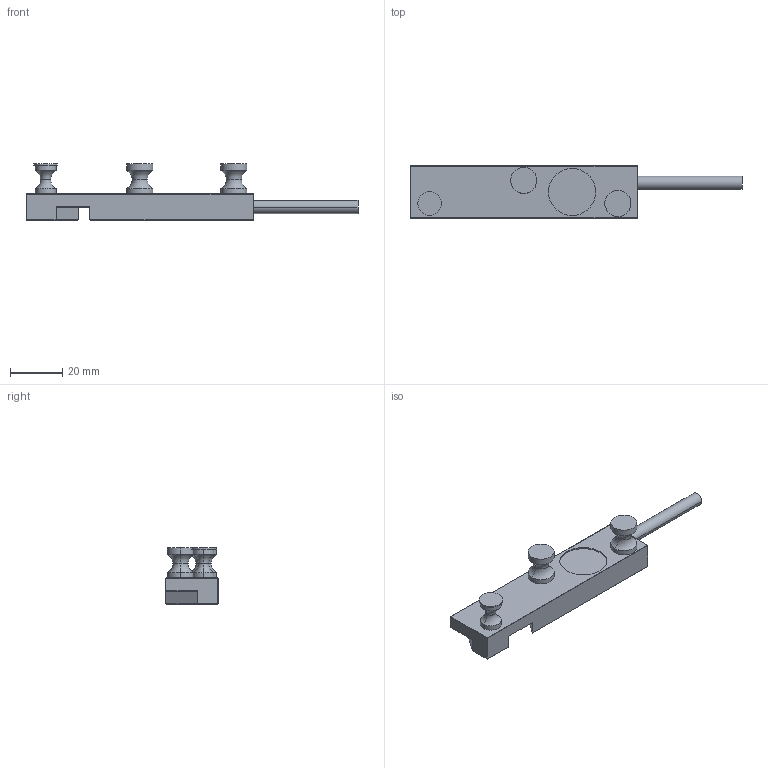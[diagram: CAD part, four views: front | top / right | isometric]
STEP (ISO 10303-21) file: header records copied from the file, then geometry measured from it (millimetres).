
FILE_DESCRIPTION (( 'STEP AP203' ), '1' );
FILE_NAME ('STAE-眒瞄勤.STEP', '2024-12-10T13:25:49', ( '' ), ( '' ), 'SwSTEP 2.0', 'SolidWorks 2019', '' );
FILE_SCHEMA (( 'CONFIG_CONTROL_DESIGN' ));
Length unit declared in the file: millimetre
Products named in the file (1): STAE-眒瞄勤
Bounding box: 127 x 20 x 21.5 mm (x, y, z)
Volume: 17929.9 mm3; surface area: 7656.7 mm2
Topology: 1 solids, 1 shells, 117 faces, 254 edges, 154 vertices
Faces by surface type: plane 75, cylinder 30, torus 12
Entity records: 3215 total; most frequent: DIRECTION 568, CARTESIAN_POINT 526, ORIENTED_EDGE 508, EDGE_CURVE 254, AXIS2_PLACEMENT_3D 196, VECTOR 176, LINE 176, VERTEX_POINT 154
